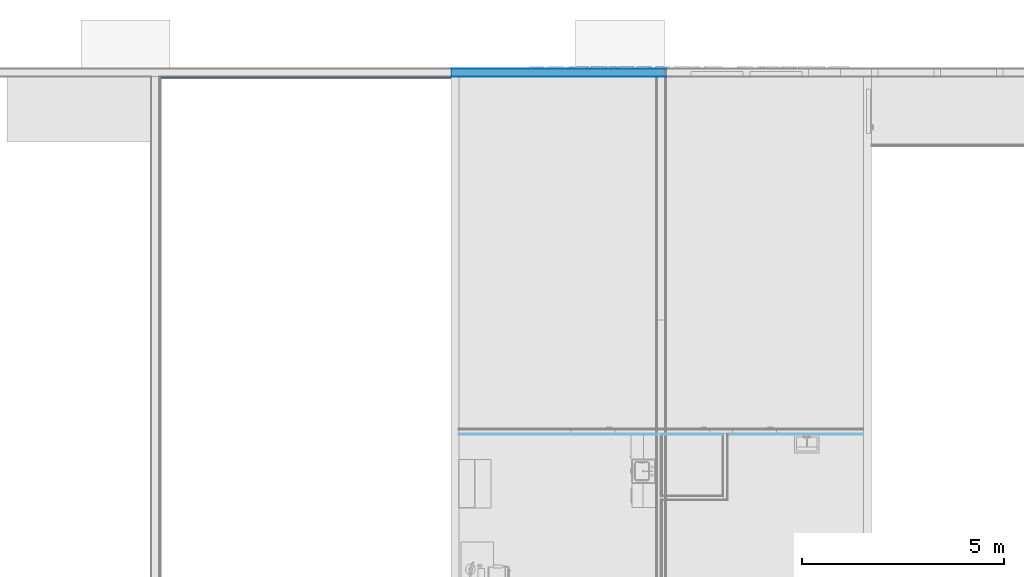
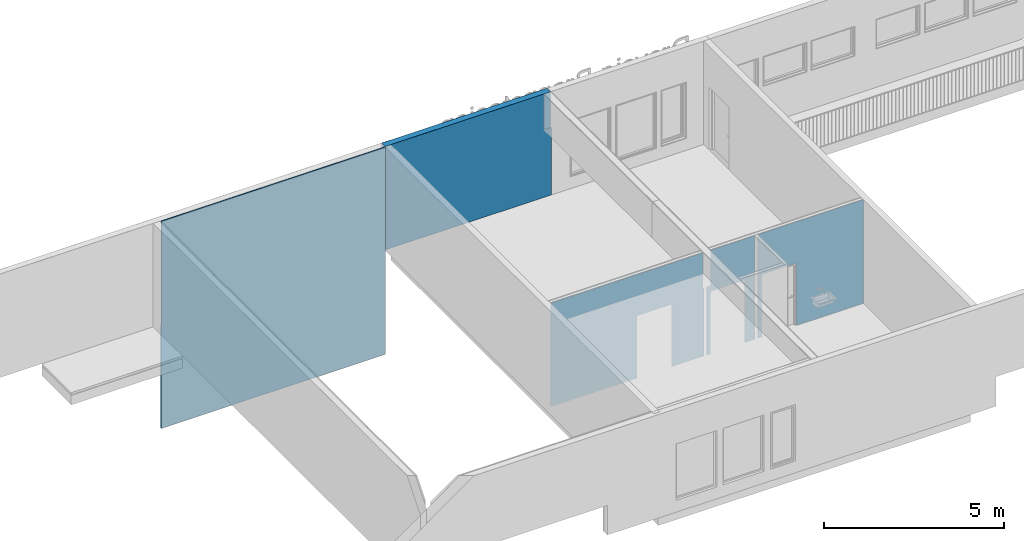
# One storey, part 7 of 12: 4 building element parts, 3 openings, 3 elements without a shape of their own, plus 6 elements that do not belong to this part.
"""IFC4 building model written with IfcOpenShell, lengths in millimetres."""

from ifc_helpers import new_model, entity, si_unit, converted_unit, direction, frame, origin, place, context, subcontext, project, spatial, indexed_curve, outline, extrude, polygons, material, type_object, element, aggregate, save


model = new_model("IFC4")

# Units and contexts
model_context = context("Model", 3, precision=0.01, world=origin(), true_north=direction((0.0, 1.0)))
body_context = subcontext(model_context, "Body", "Model", "MODEL_VIEW")
ifc_project = project(units=[si_unit("LENGTHUNIT", "METRE", prefix="MILLI"), si_unit("AREAUNIT", "SQUARE_METRE"), si_unit("VOLUMEUNIT", "CUBIC_METRE"), converted_unit("PLANEANGLEUNIT", "DEGREE", entity("IfcPlaneAngleMeasure", 0.017453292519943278), si_unit("PLANEANGLEUNIT", "RADIAN"), dimensions=[0, 0, 0, 0, 0, 0, 0])], contexts=[model_context])

# Site, building, storey
site_placement = place(None, origin())
site = spatial("IfcSite", under=ifc_project, at=site_placement, Name="Tomtens navn", CompositionType="ELEMENT")
building_placement = place(site_placement, origin())
building = spatial("IfcBuilding", under=site, at=building_placement, Name="Byggets navn", CompositionType="ELEMENT")
storey_placement = place(building_placement, frame((0.0, 0.0, 3500.0)))
storey = spatial("IfcBuildingStorey", under=building, at=storey_placement, Name="Level 02", CompositionType="ELEMENT", Elevation=3499.999999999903)

# Wall, building element part
wall_type_1 = type_object("IfcWallType", Name="Basic Wall:IV17 - Utforing lekt+fasadeplater", PredefinedType="STANDARD")
wall_1_placement = place(storey_placement, frame((51258.853528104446, 22838.46645692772, -3500.0)))
wall_1 = element("IfcWall", 1, at=wall_1_placement, inside=storey, type_object=wall_type_1, Name="Basic Wall:IV17 - Utforing lekt+fasadeplater", PredefinedType="NOTDEFINED")
ifc_material_1 = material(Name="Stender", Category="Unassigned")
building_element_part_1_placement = place(wall_1_placement, frame((-10.0, -13.0, 0.0)))
building_element_part_1 = element("IfcBuildingElementPart", 2, at=building_element_part_1_placement, material=ifc_material_1, Name="Stender", context=body_context, shape_type="Tessellation", body=[
    polygons([(-1.7954380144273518e-12, 36.0, 3499.999999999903), (-1.804068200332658e-12, 0.0, 3499.999999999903), (9.999999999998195, 0.0, 3499.999999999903), (9.999999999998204, 36.0, 3499.999999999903), (-1.804068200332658e-12, 0.0, 0.0), (7174.0000000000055, -3.637978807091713e-12, 0.0), (7174.00000000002, -3.637978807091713e-12, 3499.999999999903), (7174.0000000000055, -3.637978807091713e-12, 6999.999999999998), (9.999999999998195, 0.0, 6999.999999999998), (-1.7954380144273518e-12, 36.0, 0.0), (7174.0000000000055, 35.99999999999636, 0.0), (7174.000000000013, 35.99999999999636, 3499.999999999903), (7174.0000000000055, 35.99999999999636, 6999.999999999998), (9.999999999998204, 36.0, 6999.999999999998)], [[[1, 2, 3, 4]], [[5, 6, 7, 8, 9, 3, 2]], [[6, 5, 10, 11]], [[7, 6, 11, 12, 13, 8]], [[12, 11, 10, 1, 4, 14, 13]], [[1, 10, 5, 2]], [[9, 8, 13, 14]], [[3, 9, 14, 4]]], closed=True),
])
aggregate(wall_1, [building_element_part_1])

# Wall, openings, building element parts
wall_type_2 = type_object("IfcWallType", Name="Basic Wall:IV05 - Forestia+Gips- Stender-kryssfiner- Gips", PredefinedType="STANDARD")
wall_2_placement = place(storey_placement, frame((58622.85352810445, 14081.966456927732, 0.0)))
wall_2 = element("IfcWall", 3, at=wall_2_placement, inside=storey, type_object=wall_type_2, Name="Basic Wall:IV05 - Forestia+Gips- Stender-kryssfiner- Gips", PredefinedType="NOTDEFINED")
opening_1_placement = place(wall_2_placement, frame((6750.0, -74.50000000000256, 0.0)))
element("IfcOpeningElement", 4, at=opening_1_placement, cuts=wall_2, Name="Enfløyet:ID03 Tredør 11x21M - EI30:1", PredefinedType="OPENING", context=body_context, shape_type="SweptSolid", body=[
    extrude(outline(indexed_curve([(0.0, -8.147794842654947e-29), (2110.0000000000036, -8.147794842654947e-29), (2110.000000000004, 1109.9999999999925), (0.0, 1109.9999999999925), (0.0, -8.147794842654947e-29)], self_intersect=False)), frame((0.0, 0.0, 0.0), z_axis=(0.0, 1.0, 0.0), x_axis=(0.0, 0.0, 1.0)), (0.0, 0.0, 1.0), 149.0),
])
opening_2_placement = place(wall_2_placement, frame((5102.500000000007, -74.50000000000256, 0.0)))
element("IfcOpeningElement", 5, at=opening_2_placement, cuts=wall_2, Name="Enfløyet:ID03 Tredør 11x21M - EI30:1", PredefinedType="OPENING", context=body_context, shape_type="SweptSolid", body=[
    extrude(outline(indexed_curve([(0.0, -8.147794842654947e-29), (2110.0000000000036, -8.147794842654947e-29), (2110.000000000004, 1109.9999999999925), (0.0, 1109.9999999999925), (0.0, -8.147794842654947e-29)], self_intersect=False)), frame((0.0, 0.0, 0.0), z_axis=(0.0, 1.0, 0.0), x_axis=(0.0, 0.0, 1.0)), (0.0, 0.0, 1.0), 149.0),
])
opening_3_placement = place(wall_2_placement, frame((2763.5000000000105, -74.50000000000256, 0.0)))
element("IfcOpeningElement", 6, at=opening_3_placement, cuts=wall_2, Name="Enfløyet:ID1 Glassdør 11x21M 38dB:1", PredefinedType="OPENING", context=body_context, shape_type="SweptSolid", body=[
    extrude(outline(indexed_curve([(0.0, -8.147794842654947e-29), (2110.0000000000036, -8.147794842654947e-29), (2110.000000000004, 1109.9999999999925), (0.0, 1109.9999999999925), (0.0, -8.147794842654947e-29)], self_intersect=False)), frame((0.0, 0.0, 0.0), z_axis=(0.0, 1.0, 0.0), x_axis=(0.0, 0.0, 1.0)), (0.0, 0.0, 1.0), 149.0),
])
ifc_material_2 = material(Name="NO_Kryssfiner", Category="Tre")
building_element_part_2_placement = place(wall_2_placement, frame((4994.499999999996, -61.5, 0.0)))
building_element_part_2 = element("IfcBuildingElementPart", 7, at=building_element_part_2_placement, material=ifc_material_2, Name="NO_Kryssfiner", context=body_context, shape_type="Tessellation", body=[
    polygons([(108.00000000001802, 14.999999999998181, 9.094947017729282e-13), (108.00000000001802, 15.0, 2110.000000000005), (108.00000000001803, 1.8189894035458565e-12, 2110.000000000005), (108.00000000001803, 1.8189894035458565e-12, 9.094947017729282e-13), (1218.0000000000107, 15.0, 2110.000000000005), (1218.0000000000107, 3.637978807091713e-12, 2110.000000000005), (1218.0000000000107, 15.0, 9.094947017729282e-13), (1218.0000000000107, 3.637978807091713e-12, 9.094947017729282e-13), (131.00000000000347, 14.999999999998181, 3500.000000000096), (131.00000000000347, 14.999999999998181, 2290.000000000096), (131.00000000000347, 1.8189894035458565e-12, 2290.000000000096), (131.00000000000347, 1.8189894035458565e-12, 3500.000000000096), (1541.0000000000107, 15.0, 1.8189894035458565e-12), (1541.0000000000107, 3.637978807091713e-12, 9.094947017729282e-13), (1541.0000000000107, 15.000000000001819, 3500.000000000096), (1541.0000000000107, 3.637978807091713e-12, 3500.000000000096), (1.0749273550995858e-11, 15.0, 2290.000000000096), (1.0749273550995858e-11, 15.0, 9.094947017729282e-13), (1.0753337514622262e-11, 1.8189894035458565e-12, 9.094947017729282e-13), (1.0753337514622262e-11, 1.8189894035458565e-12, 2290.000000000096)], [[[1, 2, 3, 4]], [[2, 5, 6, 3]], [[5, 7, 8, 6]], [[9, 10, 11, 12]], [[8, 7, 13, 14]], [[13, 15, 16, 14]], [[17, 18, 19, 20]], [[1, 4, 19, 18]], [[11, 10, 17, 20]], [[9, 12, 16, 15]], [[12, 11, 20, 19, 4, 3, 6, 8, 14, 16]], [[7, 5, 2, 1, 18, 17, 10, 9, 15, 13]]], closed=True),
])
building_element_part_3_placement = place(wall_2_placement, frame((6630.500000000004, -61.49999999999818, 0.0)))
building_element_part_3 = element("IfcBuildingElementPart", 8, at=building_element_part_3_placement, material=ifc_material_2, Name="NO_Kryssfiner", context=body_context, shape_type="Tessellation", body=[
    polygons([(3369.499999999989, 3.637978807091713e-12, 3500.000000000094), (3369.499999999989, 15.0, 3500.000000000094), (-3.8026416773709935e-12, 15.000000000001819, 3500.000000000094), (-3.79857771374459e-12, 3.637978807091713e-12, 3500.000000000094), (3369.499999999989, 15.0, 0.0), (3369.499999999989, 3.637978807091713e-12, -9.094947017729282e-13), (119.49999999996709, 15.0, -9.094947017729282e-13), (119.49999999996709, 15.0, 2110.000000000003), (119.4999999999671, 3.637978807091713e-12, 2110.000000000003), (119.4999999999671, 3.637978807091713e-12, -9.094947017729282e-13), (1229.4999999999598, 15.0, 2110.000000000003), (1229.4999999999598, 3.637978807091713e-12, 2110.000000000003), (1229.4999999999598, 15.0, -9.094947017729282e-13), (1229.4999999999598, 3.637978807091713e-12, -9.094947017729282e-13), (-3.8026416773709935e-12, 15.0, -9.094947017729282e-13), (-3.79857771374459e-12, 3.637978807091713e-12, -9.094947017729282e-13)], [[[1, 2, 3, 4]], [[5, 2, 1, 6]], [[7, 8, 9, 10]], [[8, 11, 12, 9]], [[11, 13, 14, 12]], [[13, 5, 6, 14]], [[3, 15, 16, 4]], [[7, 10, 16, 15]], [[14, 6, 1, 4, 16, 10, 9, 12]], [[5, 13, 11, 8, 7, 15, 3, 2]]], closed=True),
])
building_element_part_4_placement = place(wall_2_placement, frame((0.0, -61.5, 0.0)))
building_element_part_4 = element("IfcBuildingElementPart", 9, at=building_element_part_4_placement, material=ifc_material_2, Name="NO_Kryssfiner", context=body_context, shape_type="Tessellation", body=[
    polygons([(3873.500000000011, 15.000000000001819, 9.094947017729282e-13), (3873.500000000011, 15.000000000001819, 2110.000000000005), (2763.500000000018, 15.000000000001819, 2110.000000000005), (2763.500000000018, 15.000000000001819, 9.094947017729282e-13), (1.8025231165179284e-11, 15.000000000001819, 9.094947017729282e-13), (1.8025231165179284e-11, 15.000000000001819, 3500.000000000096), (4873.499999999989, 15.000000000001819, 3500.000000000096), (4873.500000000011, 15.000000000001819, 2290.000000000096), (4899.500000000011, 15.000000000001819, 2290.000000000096), (4899.500000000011, 15.000000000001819, 9.094947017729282e-13), (4873.500000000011, 3.637978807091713e-12, 2290.000000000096), (4873.499999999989, 3.637978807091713e-12, 3500.000000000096), (1.8029295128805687e-11, 3.637978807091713e-12, 3500.000000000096), (1.8029295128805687e-11, 3.637978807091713e-12, 9.094947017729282e-13), (2763.500000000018, 3.637978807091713e-12, 9.094947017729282e-13), (2763.500000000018, 3.637978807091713e-12, 2110.000000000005), (3873.500000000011, 3.637978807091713e-12, 2110.000000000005), (3873.500000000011, 3.637978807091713e-12, 1.8189894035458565e-12), (4899.500000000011, 3.637978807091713e-12, 9.094947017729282e-13), (4899.500000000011, 3.637978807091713e-12, 2290.000000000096)], [[[1, 2, 3, 4, 5, 6, 7, 8, 9, 10]], [[11, 12, 13, 14, 15, 16, 17, 18, 19, 20]], [[5, 4, 15, 14]], [[6, 5, 14, 13]], [[8, 7, 12, 11]], [[8, 11, 20, 9]], [[4, 3, 16, 15]], [[3, 2, 17, 16]], [[2, 1, 18, 17]], [[7, 6, 13, 12]], [[18, 1, 10, 19]], [[10, 9, 20, 19]]], closed=True),
])
ifc_material_3 = material(Name="Gipsplater", Category="NOR ^ Gips")
building_element_part_5_placement = place(wall_2_placement, frame((5009.499999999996, -74.50000000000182, 0.0)))
building_element_part_5 = element("IfcBuildingElementPart", 10, at=building_element_part_5_placement, material=ifc_material_3, Name="Gipsplater", context=body_context, shape_type="Tessellation", body=[
    polygons([(93.00000000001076, 13.000000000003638, 9.094947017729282e-13), (93.00000000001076, 13.000000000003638, 2110.000000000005), (93.00000000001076, 0.0, 2110.000000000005), (93.00000000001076, 0.0, 9.094947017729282e-13), (1203.0000000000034, 13.000000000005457, 2110.000000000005), (1203.0000000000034, 1.8189894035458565e-12, 2110.000000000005), (1203.0000000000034, 13.000000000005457, 9.094947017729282e-13), (1203.0000000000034, 1.8189894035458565e-12, 9.094947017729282e-13), (115.9999999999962, 13.000000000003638, 3500.000000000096), (115.9999999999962, 13.000000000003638, 2290.000000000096), (115.9999999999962, 0.0, 2290.000000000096), (115.9999999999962, 0.0, 3500.000000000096), (1513.0000000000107, 13.000000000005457, 9.094947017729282e-13), (1513.0000000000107, 1.8189894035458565e-12, 9.094947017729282e-13), (1513.0000000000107, 13.000000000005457, 3500.000000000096), (1513.0000000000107, 1.8189894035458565e-12, 3500.000000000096), (3.4773799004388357e-12, 13.000000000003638, 2290.000000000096), (3.4773799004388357e-12, 13.000000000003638, 9.094947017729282e-13), (3.480902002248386e-12, 0.0, 9.094947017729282e-13), (3.480902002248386e-12, 0.0, 2290.000000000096), (13.000000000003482, 0.0, 2290.000000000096), (13.000000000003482, 0.0, 9.094947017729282e-13)], [[[1, 2, 3, 4]], [[2, 5, 6, 3]], [[5, 7, 8, 6]], [[9, 10, 11, 12]], [[8, 7, 13, 14]], [[13, 15, 16, 14]], [[17, 18, 19, 20]], [[16, 12, 11, 21, 20, 19, 22, 4, 3, 6, 8, 14]], [[1, 4, 22, 19, 18]], [[11, 10, 17, 20, 21]], [[9, 12, 16, 15]], [[7, 5, 2, 1, 18, 17, 10, 9, 15, 13]]], closed=True),
])
building_element_part_6_placement = place(wall_2_placement, frame((6643.499999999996, -74.50000000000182, 0.0)))
building_element_part_6 = element("IfcBuildingElementPart", 11, at=building_element_part_6_placement, material=ifc_material_3, Name="Gipsplater", context=body_context, shape_type="Tessellation", body=[
    polygons([(1.803281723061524e-11, 3.637978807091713e-12, 3500.000000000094), (3356.499999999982, 1.8189894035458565e-12, 3500.000000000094), (3356.4999999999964, 13.000000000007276, 3500.000000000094), (1.8029295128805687e-11, 13.000000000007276, 3500.000000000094), (3356.4999999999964, 13.000000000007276, -9.094947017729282e-13), (3356.4999999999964, 1.8189894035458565e-12, -9.094947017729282e-13), (106.49999999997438, 13.000000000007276, -9.094947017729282e-13), (106.49999999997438, 13.000000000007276, 2110.000000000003), (106.49999999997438, 3.637978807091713e-12, 2110.000000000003), (106.49999999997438, 3.637978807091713e-12, -9.094947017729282e-13), (1216.499999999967, 13.000000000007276, 2110.000000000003), (1216.499999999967, 3.637978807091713e-12, 2110.000000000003), (1216.499999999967, 13.000000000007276, -9.094947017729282e-13), (1216.499999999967, 3.637978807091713e-12, -9.094947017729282e-13), (1.8029295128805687e-11, 13.000000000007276, -9.094947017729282e-13), (1.803281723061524e-11, 3.637978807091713e-12, -9.094947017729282e-13)], [[[1, 2, 3, 4]], [[5, 3, 2, 6]], [[7, 8, 9, 10]], [[8, 11, 12, 9]], [[11, 13, 14, 12]], [[13, 5, 6, 14]], [[4, 15, 16, 1]], [[2, 1, 16, 10, 9, 12, 14, 6]], [[7, 10, 16, 15]], [[5, 13, 11, 8, 7, 15, 4, 3]]], closed=True),
])
building_element_part_7_placement = place(wall_2_placement, frame((0.0, -74.50000000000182, 0.0)))
building_element_part_7 = element("IfcBuildingElementPart", 12, at=building_element_part_7_placement, material=ifc_material_3, Name="Gipsplater", context=body_context, shape_type="Tessellation", body=[
    polygons([(3873.500000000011, 13.000000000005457, 0.0), (3873.500000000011, 13.000000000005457, 2110.000000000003), (2763.500000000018, 13.000000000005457, 2110.000000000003), (2763.500000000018, 13.000000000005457, -9.094947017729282e-13), (1.8029295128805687e-11, 13.000000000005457, -9.094947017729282e-13), (1.8029295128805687e-11, 13.000000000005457, 3500.000000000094), (4873.499999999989, 13.000000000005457, 3500.000000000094), (4873.500000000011, 13.000000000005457, 2290.000000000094), (4886.500000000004, 13.000000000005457, 2290.000000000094), (4886.500000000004, 13.000000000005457, 0.0), (2763.500000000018, 1.8189894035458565e-12, -9.094947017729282e-13), (1.803281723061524e-11, 3.637978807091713e-12, -9.094947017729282e-13), (1.803281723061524e-11, 3.637978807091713e-12, 3500.000000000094), (4873.499999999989, 1.8189894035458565e-12, 3500.000000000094), (4873.499999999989, 1.8189894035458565e-12, 2290.000000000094), (4886.500000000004, 1.8189894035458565e-12, 2290.000000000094), (2763.500000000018, 1.8189894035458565e-12, 2110.000000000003), (3873.500000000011, 1.8189894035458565e-12, 2110.000000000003), (3873.500000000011, 1.8189894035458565e-12, -9.094947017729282e-13), (4886.500000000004, 1.8189894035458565e-12, -9.094947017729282e-13), (4873.500000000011, 1.8189894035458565e-12, -9.094947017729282e-13)], [[[1, 2, 3, 4, 5, 6, 7, 8, 9, 10]], [[5, 4, 11, 12]], [[6, 5, 12, 13]], [[8, 7, 14, 15]], [[8, 15, 16, 9]], [[4, 3, 17, 11]], [[3, 2, 18, 17]], [[2, 1, 19, 18]], [[7, 6, 13, 14]], [[19, 1, 10, 20, 21]], [[12, 11, 17, 18, 19, 21, 20, 16, 15, 14, 13]], [[10, 9, 16, 20]]], closed=True),
])
aggregate(wall_2, [building_element_part_2, building_element_part_3, building_element_part_4, building_element_part_5, building_element_part_6, building_element_part_7])

# Wall, building element parts
wall_type_3 = type_object("IfcWallType", Name="Basic Wall:YV02 Sandwichvegg 200 rød", PredefinedType="STANDARD")
wall_3_placement = place(storey_placement, frame((58432.85352810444, 22961.466456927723, 0.0)))
wall_3 = element("IfcWall", 13, at=wall_3_placement, inside=storey, type_object=wall_type_3, Name="Basic Wall:YV02 Sandwichvegg 200 rød", PredefinedType="NOTDEFINED")
ifc_material_4 = material(Name="NO_Maling - rød", Category="Overflatebehandling")
building_element_part_8_placement = place(wall_3_placement, frame((0.0, 98.0, 0.0)))
building_element_part_8 = element("IfcBuildingElementPart", 14, at=building_element_part_8_placement, material=ifc_material_4, Name="NO_Maling - rød", context=body_context, shape_type="Tessellation", body=[
    polygons([(5315.500000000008, -3.637978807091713e-12, 2290.000000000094), (5315.500000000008, 1.999999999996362, 2290.000000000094), (5302.500000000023, 1.999999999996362, 2290.000000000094), (5302.500000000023, -3.637978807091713e-12, 2290.000000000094), (5315.500000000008, -3.637978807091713e-12, 0.0), (1.2189832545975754e-12, -3.637978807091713e-12, -9.094947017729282e-13), (1.2190889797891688e-12, 1.999999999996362, -9.094947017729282e-13), (5189.500000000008, 1.999999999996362, -9.094947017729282e-13), (5315.500000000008, 1.999999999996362, -9.094947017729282e-13), (1.2189832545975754e-12, -3.637978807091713e-12, 2290.000000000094), (1.2189832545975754e-12, -3.637978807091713e-12, 3499.999999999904), (1.2190889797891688e-12, 1.999999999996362, 3499.9999999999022), (1.2190889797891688e-12, 1.999999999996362, 2290.000000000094), (5302.500000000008, -3.637978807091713e-12, 3499.9999999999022), (5302.500000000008, 1.999999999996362, 3499.9999999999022)], [[[1, 2, 3, 4]], [[5, 6, 7, 8, 9]], [[6, 10, 11, 12, 13, 7]], [[1, 5, 9, 2]], [[6, 5, 1, 4, 14, 11, 10]], [[9, 8, 7, 13, 12, 15, 3, 2]], [[11, 14, 15, 12]], [[14, 4, 3, 15]]], closed=True),
])
ifc_material_5 = material(Name="Rustfritt Stål", Category="Metal")
building_element_part_9_placement = place(wall_3_placement, frame((0.0, -100.0, 0.0)))
building_element_part_9 = element("IfcBuildingElementPart", 15, at=building_element_part_9_placement, material=ifc_material_5, Name="Rustfritt Stål", context=body_context, shape_type="Tessellation", body=[
    polygons([(5315.500000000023, -3.637978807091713e-12, 2290.0000000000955), (5315.500000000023, 2.0, 2290.0000000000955), (5089.50000000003, 2.000000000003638, 2290.0000000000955), (5089.50000000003, -3.637978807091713e-12, 2290.0000000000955), (1.5760537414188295e-11, 2.0, 4.547473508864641e-13), (5315.500000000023, 2.0, 4.547473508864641e-13), (5315.500000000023, -3.637978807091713e-12, 4.547473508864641e-13), (5189.500000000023, -3.637978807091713e-12, 4.547473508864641e-13), (190.0000000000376, -3.637978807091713e-12, 4.547473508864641e-13), (1.5760431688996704e-11, -3.637978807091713e-12, 4.547473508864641e-13), (1.5760537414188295e-11, 2.0, 2290.0000000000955), (1.5760431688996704e-11, -3.637978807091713e-12, 2290.0000000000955), (1.5760431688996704e-11, -3.637978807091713e-12, 3499.9999999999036), (1.5760537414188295e-11, 2.0, 3499.9999999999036), (5089.50000000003, 2.0, 3499.9999999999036), (5089.50000000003, -3.637978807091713e-12, 3499.9999999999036), (5063.50000000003, -3.637978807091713e-12, 3499.9999999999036), (190.0000000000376, -3.637978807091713e-12, 3499.9999999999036)], [[[1, 2, 3, 4]], [[5, 6, 7, 8, 9, 10]], [[11, 5, 10, 12, 13, 14]], [[6, 2, 1, 7]], [[6, 5, 11, 14, 15, 3, 2]], [[10, 9, 8, 7, 1, 4, 16, 17, 18, 13, 12]], [[15, 14, 13, 18, 17, 16]], [[3, 15, 16, 4]]], closed=True),
])
ifc_material_6 = material(Name="NO_Isolasjon - Fast", Category="Isolasjon")
building_element_part_10_placement = place(wall_3_placement, frame((0.0, -98.0, 0.0)))
building_element_part_10 = element("IfcBuildingElementPart", 16, at=building_element_part_10_placement, material=ifc_material_6, Name="NO_Isolasjon - Fast", context=body_context, shape_type="Tessellation", body=[
    polygons([(5315.5000000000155, -3.637978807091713e-12, 2290.000000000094), (5315.5000000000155, 195.99999999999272, 2290.000000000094), (5289.500000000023, 195.99999999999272, 2290.000000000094), (5289.500000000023, -3.637978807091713e-12, 2290.000000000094), (5315.5000000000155, 195.99999999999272, 0.0), (8.494940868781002e-12, 195.99999999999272, -9.094947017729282e-13), (8.494940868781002e-12, 195.99999999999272, 2290.000000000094), (8.494940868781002e-12, 195.99999999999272, 3499.999999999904), (5289.500000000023, 195.99999999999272, 3499.9999999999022), (5315.5000000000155, -3.637978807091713e-12, -9.094947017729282e-13), (8.48457980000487e-12, -3.637978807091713e-12, -9.094947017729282e-13), (8.48457980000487e-12, -3.637978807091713e-12, 2290.000000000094), (8.48457980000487e-12, -3.637978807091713e-12, 3499.9999999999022), (5289.500000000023, -3.637978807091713e-12, 3499.9999999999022)], [[[1, 2, 3, 4]], [[5, 6, 7, 8, 9, 3, 2]], [[6, 5, 10, 11]], [[7, 6, 11, 12, 13, 8]], [[5, 2, 1, 10]], [[11, 10, 1, 4, 14, 13, 12]], [[9, 8, 13, 14]], [[3, 9, 14, 4]]], closed=True),
])
aggregate(wall_3, [building_element_part_8, building_element_part_9, building_element_part_10])

save(model, "model.ifc")
